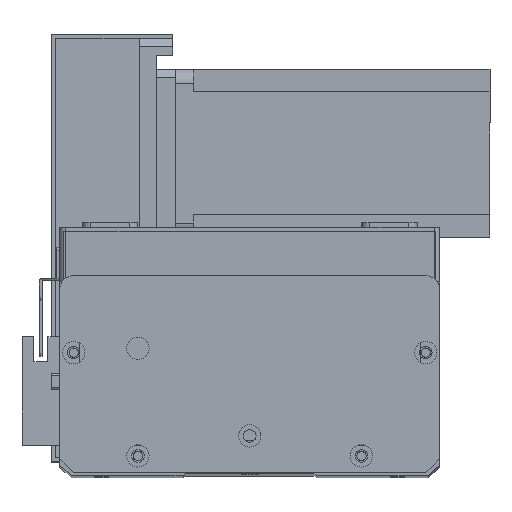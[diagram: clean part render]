
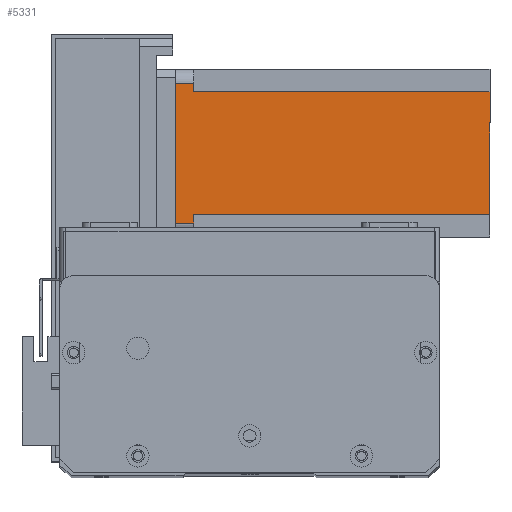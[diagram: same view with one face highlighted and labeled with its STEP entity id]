
A CAD part, top view. The second image highlights one B-rep face of the part: STEP entity #5331.
In plain terms, the highlighted planar face has unit normal (0, 0, 1) as drawn and (0, -1, 0) by its records, which use the part's own axes.
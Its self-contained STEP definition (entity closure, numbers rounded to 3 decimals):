
#505 = VERTEX_POINT ( 'NONE', #26801 ) ;
#563 = CARTESIAN_POINT ( 'NONE',  ( 8., 0., -112.5 ) ) ;
#1237 = VECTOR ( 'NONE', #1872, 1000. ) ;
#1400 = CARTESIAN_POINT ( 'NONE',  ( 8., 0., -6.5 ) ) ;
#1596 = EDGE_CURVE ( 'NONE', #11606, #5694, #28048, .T. ) ;
#1667 = EDGE_CURVE ( 'NONE', #5694, #505, #26673, .T. ) ;
#1872 = DIRECTION ( 'NONE',  ( 0., 0., -1. ) ) ;
#1876 = VERTEX_POINT ( 'NONE', #22803 ) ;
#2470 = DIRECTION ( 'NONE',  ( 0., -1., 0. ) ) ;
#2537 = CARTESIAN_POINT ( 'NONE',  ( 55., 0., 0. ) ) ;
#2875 = EDGE_CURVE ( 'NONE', #1876, #26361, #28315, .T. ) ;
#3433 = VERTEX_POINT ( 'NONE', #3960 ) ;
#3960 = CARTESIAN_POINT ( 'NONE',  ( 52., 0., -112.5 ) ) ;
#4523 = CARTESIAN_POINT ( 'NONE',  ( 0., 0., -112.5 ) ) ;
#5227 = VECTOR ( 'NONE', #13824, 1000. ) ;
#5331 = ADVANCED_FACE ( 'NONE', ( #21778 ), #13514, .T. ) ;
#5482 = VECTOR ( 'NONE', #22580, 1000. ) ;
#5694 = VERTEX_POINT ( 'NONE', #1400 ) ;
#5994 = DIRECTION ( 'NONE',  ( 0., 0., -1. ) ) ;
#6169 = EDGE_CURVE ( 'NONE', #9486, #1876, #12094, .T. ) ;
#6322 = EDGE_CURVE ( 'NONE', #15309, #26361, #7916, .T. ) ;
#6780 = LINE ( 'NONE', #19198, #24407 ) ;
#7101 = ORIENTED_EDGE ( 'NONE', *, *, #2875, .T. ) ;
#7916 = LINE ( 'NONE', #14293, #18935 ) ;
#8572 = EDGE_LOOP ( 'NONE', ( #25315, #7101, #13558, #27151, #27901, #16886, #23895, #19919 ) ) ;
#9437 = DIRECTION ( 'NONE',  ( 0., 0., 1. ) ) ;
#9486 = VERTEX_POINT ( 'NONE', #20285 ) ;
#10260 = CARTESIAN_POINT ( 'NONE',  ( 5., 0., 0. ) ) ;
#11606 = VERTEX_POINT ( 'NONE', #26825 ) ;
#12094 = LINE ( 'NONE', #13712, #5482 ) ;
#12998 = LINE ( 'NONE', #21766, #1237 ) ;
#13514 = PLANE ( 'NONE',  #14459 ) ;
#13558 = ORIENTED_EDGE ( 'NONE', *, *, #6322, .F. ) ;
#13712 = CARTESIAN_POINT ( 'NONE',  ( 52., 0., -6.5 ) ) ;
#13824 = DIRECTION ( 'NONE',  ( 0., 0., 1. ) ) ;
#14293 = CARTESIAN_POINT ( 'NONE',  ( 0., 0., 0. ) ) ;
#14459 = AXIS2_PLACEMENT_3D ( 'NONE', #24493, #2470, #17906 ) ;
#14838 = EDGE_CURVE ( 'NONE', #9486, #3433, #12998, .T. ) ;
#15309 = VERTEX_POINT ( 'NONE', #10260 ) ;
#15356 = EDGE_CURVE ( 'NONE', #15309, #505, #6780, .T. ) ;
#16216 = DIRECTION ( 'NONE',  ( -1., 0., 0. ) ) ;
#16496 = DIRECTION ( 'NONE',  ( 1., 0., 0. ) ) ;
#16886 = ORIENTED_EDGE ( 'NONE', *, *, #1596, .F. ) ;
#17753 = VECTOR ( 'NONE', #19928, 1000. ) ;
#17906 = DIRECTION ( 'NONE',  ( 0., 0., -1. ) ) ;
#18935 = VECTOR ( 'NONE', #16496, 1000. ) ;
#19198 = CARTESIAN_POINT ( 'NONE',  ( 5., 0., -112.5 ) ) ;
#19919 = ORIENTED_EDGE ( 'NONE', *, *, #14838, .F. ) ;
#19928 = DIRECTION ( 'NONE',  ( 1., 0., 0. ) ) ;
#20285 = CARTESIAN_POINT ( 'NONE',  ( 52., 0., -6.5 ) ) ;
#20475 = CARTESIAN_POINT ( 'NONE',  ( 55., 0., -112.5 ) ) ;
#20754 = VECTOR ( 'NONE', #16216, 1000. ) ;
#21733 = VECTOR ( 'NONE', #9437, 1000. ) ;
#21766 = CARTESIAN_POINT ( 'NONE',  ( 52., 0., -112.5 ) ) ;
#21778 = FACE_OUTER_BOUND ( 'NONE', #8572, .T. ) ;
#22545 = EDGE_CURVE ( 'NONE', #11606, #3433, #23638, .T. ) ;
#22580 = DIRECTION ( 'NONE',  ( 1., 0., 0. ) ) ;
#22778 = CARTESIAN_POINT ( 'NONE',  ( 8., 0., -6.5 ) ) ;
#22803 = CARTESIAN_POINT ( 'NONE',  ( 55., 0., -6.5 ) ) ;
#23638 = LINE ( 'NONE', #4523, #17753 ) ;
#23895 = ORIENTED_EDGE ( 'NONE', *, *, #22545, .T. ) ;
#24407 = VECTOR ( 'NONE', #5994, 1000. ) ;
#24493 = CARTESIAN_POINT ( 'NONE',  ( 0., 0., -112.5 ) ) ;
#25315 = ORIENTED_EDGE ( 'NONE', *, *, #6169, .T. ) ;
#26361 = VERTEX_POINT ( 'NONE', #2537 ) ;
#26673 = LINE ( 'NONE', #22778, #20754 ) ;
#26801 = CARTESIAN_POINT ( 'NONE',  ( 5., 0., -6.5 ) ) ;
#26825 = CARTESIAN_POINT ( 'NONE',  ( 8., 0., -112.5 ) ) ;
#27151 = ORIENTED_EDGE ( 'NONE', *, *, #15356, .T. ) ;
#27901 = ORIENTED_EDGE ( 'NONE', *, *, #1667, .F. ) ;
#28048 = LINE ( 'NONE', #563, #5227 ) ;
#28315 = LINE ( 'NONE', #20475, #21733 ) ;
